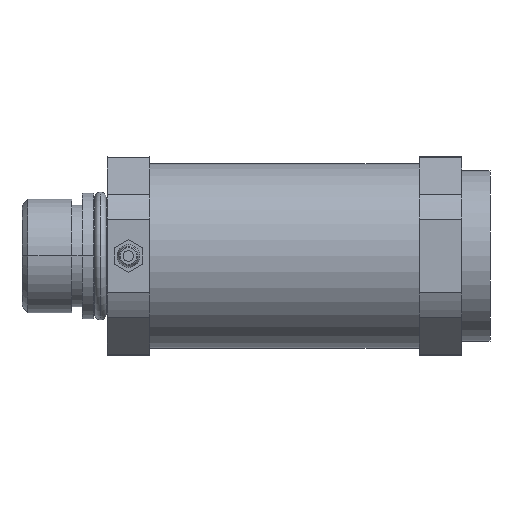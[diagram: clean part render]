
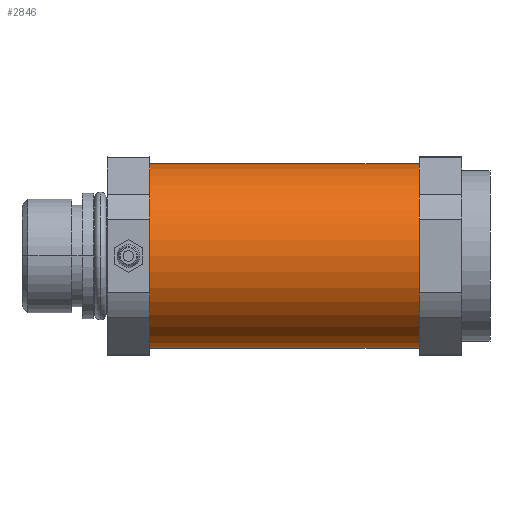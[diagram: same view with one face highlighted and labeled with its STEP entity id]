
A CAD part, front view. The second image highlights one B-rep face of the part: STEP entity #2846.
In plain terms, the highlighted cylindrical face has radius 0.812 mm (diameter 1.625 mm), a partial arc.
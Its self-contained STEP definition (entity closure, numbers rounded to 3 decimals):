
#2805=CARTESIAN_POINT('',(-2.5,0.0,0.0));
#2806=DIRECTION('',(1.0,0.0,0.0));
#2807=DIRECTION('',(0.0,0.0,-1.0));
#2808=AXIS2_PLACEMENT_3D('',#2805,#2806,#2807);
#2809=CYLINDRICAL_SURFACE('',#2808,0.813);
#2810=CARTESIAN_POINT('',(-0.625,0.0,-0.813));
#2811=VERTEX_POINT('',#2810);
#2812=CARTESIAN_POINT('',(-3.0,0.0,-0.813));
#2813=VERTEX_POINT('',#2812);
#2814=CARTESIAN_POINT('',(-0.625,0.0,-0.813));
#2815=DIRECTION('',(-1.0,0.0,0.0));
#2816=VECTOR('',#2815,2.375);
#2817=LINE('',#2814,#2816);
#2818=EDGE_CURVE('',#2811,#2813,#2817,.T.);
#2819=ORIENTED_EDGE('',*,*,#2818,.F.);
#2820=CARTESIAN_POINT('',(-0.625,0.,0.813));
#2821=VERTEX_POINT('',#2820);
#2822=CARTESIAN_POINT('',(-0.625,0.0,0.0));
#2823=DIRECTION('',(-1.0,0.0,0.0));
#2824=DIRECTION('',(0.0,0.0,-1.0));
#2825=AXIS2_PLACEMENT_3D('',#2822,#2823,#2824);
#2826=CIRCLE('',#2825,0.813);
#2827=EDGE_CURVE('',#2811,#2821,#2826,.T.);
#2828=ORIENTED_EDGE('',*,*,#2827,.T.);
#2829=CARTESIAN_POINT('',(-3.0,0.,0.813));
#2830=VERTEX_POINT('',#2829);
#2831=CARTESIAN_POINT('',(-0.625,0.,0.813));
#2832=DIRECTION('',(-1.0,0.0,0.0));
#2833=VECTOR('',#2832,2.375);
#2834=LINE('',#2831,#2833);
#2835=EDGE_CURVE('',#2821,#2830,#2834,.T.);
#2836=ORIENTED_EDGE('',*,*,#2835,.T.);
#2837=CARTESIAN_POINT('',(-3.0,0.0,0.0));
#2838=DIRECTION('',(1.0,0.0,0.0));
#2839=DIRECTION('',(0.0,0.0,-1.0));
#2840=AXIS2_PLACEMENT_3D('',#2837,#2838,#2839);
#2841=CIRCLE('',#2840,0.813);
#2842=EDGE_CURVE('',#2830,#2813,#2841,.T.);
#2843=ORIENTED_EDGE('',*,*,#2842,.T.);
#2844=EDGE_LOOP('',(#2819,#2828,#2836,#2843));
#2845=FACE_OUTER_BOUND('',#2844,.T.);
#2846=ADVANCED_FACE('',(#2845),#2809,.T.);
